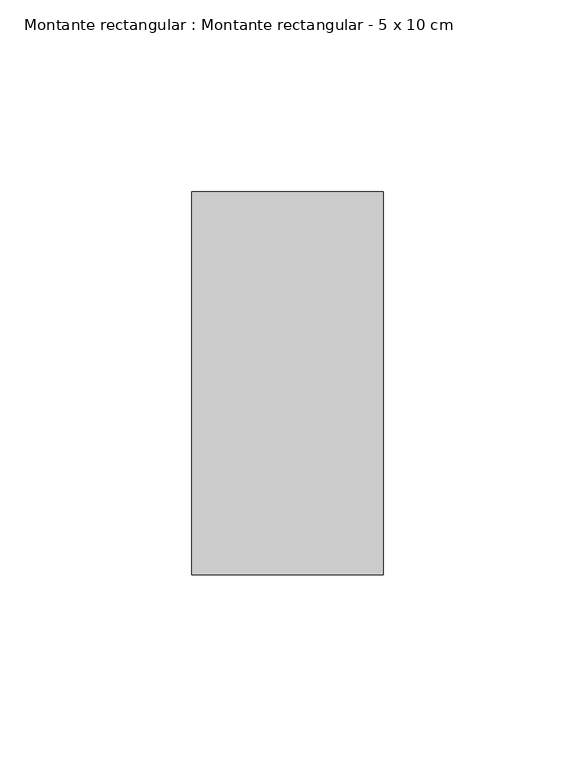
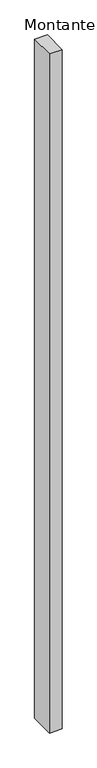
"""IFC4 building model written with IfcOpenShell, lengths in millimetres: member geometry, Montante rectangular : Montante rectangular - 5 x 10 cm."""

from ifc_helpers import new_model, si_unit, frame, origin, place, context, project, spatial, polyline, outline, extrude, source, transform, mapped, element, save


def montante_rectangular_montante_rectangular_5_x_10_cm_83dea609(model_context):
    return source(origin(), model_context, "Body", "SweptSolid", [
        extrude(outline(polyline([(25.0, -50.0), (-25.0, -50.0), (-25.0, 50.0), (25.0, 50.0), (25.0, -50.0)])), frame((0.0, 0.0, -2820.0), z_axis=(0.0, 0.0, 1.0), x_axis=(1.0, 0.0, 0.0)), (0.0, 0.0, 1.0), 2820.0),
    ])


if __name__ == "__main__":
    model = new_model("IFC4")
    model_context = context("Model", 3, world=origin())
    ifc_project = project(units=[si_unit("LENGTHUNIT", "METRE", prefix="MILLI")], contexts=[model_context])
    site = spatial("IfcSite", under=ifc_project)
    building = spatial("IfcBuilding", under=site)
    placement = place(None, origin())
    montante_rectangular_montante_rectangular_5_x_10_cm_shape = montante_rectangular_montante_rectangular_5_x_10_cm_83dea609(model_context)
    element("IfcMember", 1, ObjectType="Montante rectangular : Montante rectangular - 5 x 10 cm", at=placement, inside=building, context=model_context, shape_type="MappedRepresentation", body=[
        mapped(montante_rectangular_montante_rectangular_5_x_10_cm_shape, transform((0.0, 0.0, 0.0), x_axis=(1.0, 0.0, 0.0), y_axis=(0.0, 1.0, 0.0), z_axis=(0.0, 0.0, 1.0))),
    ])
    save(model, "model.ifc")
